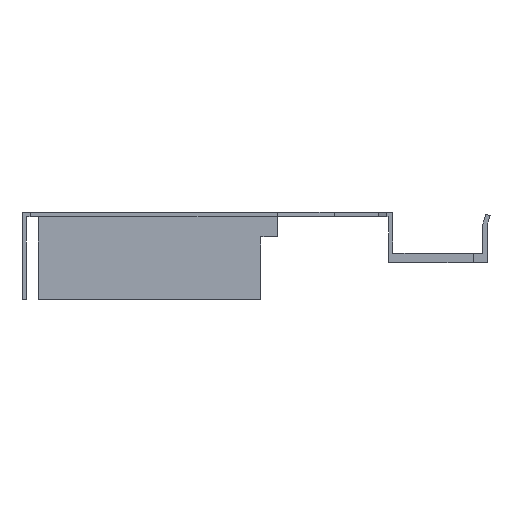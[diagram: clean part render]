
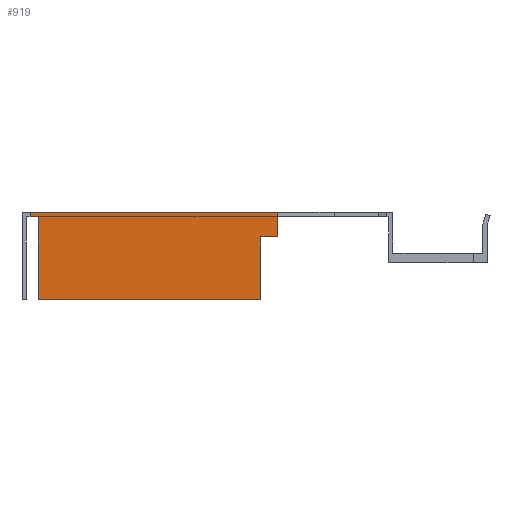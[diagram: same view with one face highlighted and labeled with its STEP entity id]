
A CAD part, left-side view. The second image highlights one B-rep face of the part: STEP entity #919.
In plain terms, the highlighted planar face has unit normal (-1, 0, 0).
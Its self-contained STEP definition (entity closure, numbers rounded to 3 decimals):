
#3 = EDGE_CURVE ( 'NONE', #287, #301, #1625, .T. ) ;
#21 = EDGE_CURVE ( 'NONE', #289, #287, #1656, .T. ) ;
#22 = EDGE_CURVE ( 'NONE', #260, #290, #1658, .T. ) ;
#24 = EDGE_CURVE ( 'NONE', #286, #289, #1662, .T. ) ;
#25 = EDGE_CURVE ( 'NONE', #280, #258, #1664, .T. ) ;
#26 = EDGE_CURVE ( 'NONE', #301, #290, #1647, .T. ) ;
#108 = EDGE_CURVE ( 'NONE', #286, #280, #1113, .T. ) ;
#135 = EDGE_CURVE ( 'NONE', #258, #260, #1167, .T. ) ;
#178 = AXIS2_PLACEMENT_3D ( 'NONE', #774, #780, #781 ) ;
#258 = VERTEX_POINT ( 'NONE', #652 ) ;
#260 = VERTEX_POINT ( 'NONE', #654 ) ;
#280 = VERTEX_POINT ( 'NONE', #674 ) ;
#286 = VERTEX_POINT ( 'NONE', #680 ) ;
#287 = VERTEX_POINT ( 'NONE', #681 ) ;
#289 = VERTEX_POINT ( 'NONE', #683 ) ;
#290 = VERTEX_POINT ( 'NONE', #684 ) ;
#301 = VERTEX_POINT ( 'NONE', #695 ) ;
#315 = CARTESIAN_POINT ( 'NONE',  ( -865., 24.2, -8.5 ) ) ;
#316 = DIRECTION ( 'NONE',  ( 0., 0., 1. ) ) ;
#344 = CARTESIAN_POINT ( 'NONE',  ( -865., 65., -8.5 ) ) ;
#345 = DIRECTION ( 'NONE',  ( 0., -1., 0. ) ) ;
#346 = CARTESIAN_POINT ( 'NONE',  ( -865., 21.2, 0. ) ) ;
#347 = DIRECTION ( 'NONE',  ( 0., 0., -1. ) ) ;
#348 = CARTESIAN_POINT ( 'NONE',  ( -865., 24.2, 3. ) ) ;
#350 = CARTESIAN_POINT ( 'NONE',  ( -865., 65., 7.5 ) ) ;
#351 = DIRECTION ( 'NONE',  ( 0., 0., -1. ) ) ;
#352 = CARTESIAN_POINT ( 'NONE',  ( -865., 66.5, 6.7 ) ) ;
#353 = DIRECTION ( 'NONE',  ( 0., 0., 1. ) ) ;
#355 = DIRECTION ( 'NONE',  ( 0., -1., 0. ) ) ;
#527 = CARTESIAN_POINT ( 'NONE',  ( -865., 0.8, 6.7 ) ) ;
#528 = DIRECTION ( 'NONE',  ( 0., 1., 0. ) ) ;
#582 = CARTESIAN_POINT ( 'NONE',  ( -865., 0., 7.5 ) ) ;
#583 = DIRECTION ( 'NONE',  ( 0., -1., 0. ) ) ;
#652 = CARTESIAN_POINT ( 'NONE',  ( -865., 66.5, 7.5 ) ) ;
#654 = CARTESIAN_POINT ( 'NONE',  ( -865., 21.2, 7.5 ) ) ;
#674 = CARTESIAN_POINT ( 'NONE',  ( -865., 66.5, 6.7 ) ) ;
#680 = CARTESIAN_POINT ( 'NONE',  ( -865., 65., 6.7 ) ) ;
#681 = CARTESIAN_POINT ( 'NONE',  ( -865., 24.2, -8.5 ) ) ;
#683 = CARTESIAN_POINT ( 'NONE',  ( -865., 65., -8.5 ) ) ;
#684 = CARTESIAN_POINT ( 'NONE',  ( -865., 21.2, 3. ) ) ;
#695 = CARTESIAN_POINT ( 'NONE',  ( -865., 24.2, 3. ) ) ;
#771 = PLANE ( 'NONE',  #178 ) ;
#774 = CARTESIAN_POINT ( 'NONE',  ( -865., -16.5, 0. ) ) ;
#780 = DIRECTION ( 'NONE',  ( -1., 0., 0. ) ) ;
#781 = DIRECTION ( 'NONE',  ( 0., 0., 1. ) ) ;
#919 = ADVANCED_FACE ( 'NONE', ( #1218 ), #771, .T. ) ;
#1113 = LINE ( 'NONE', #527, #1114 ) ;
#1114 = VECTOR ( 'NONE', #528, 1000. ) ;
#1167 = LINE ( 'NONE', #582, #1168 ) ;
#1168 = VECTOR ( 'NONE', #583, 1000. ) ;
#1218 = FACE_OUTER_BOUND ( 'NONE', #1556, .T. ) ;
#1399 = ORIENTED_EDGE ( 'NONE', *, *, #25, .F. ) ;
#1400 = ORIENTED_EDGE ( 'NONE', *, *, #108, .F. ) ;
#1401 = ORIENTED_EDGE ( 'NONE', *, *, #24, .T. ) ;
#1402 = ORIENTED_EDGE ( 'NONE', *, *, #21, .T. ) ;
#1403 = ORIENTED_EDGE ( 'NONE', *, *, #3, .T. ) ;
#1404 = ORIENTED_EDGE ( 'NONE', *, *, #26, .T. ) ;
#1405 = ORIENTED_EDGE ( 'NONE', *, *, #22, .F. ) ;
#1406 = ORIENTED_EDGE ( 'NONE', *, *, #135, .F. ) ;
#1556 = EDGE_LOOP ( 'NONE', ( #1399, #1400, #1401, #1402, #1403, #1404, #1405, #1406 ) ) ;
#1623 = VECTOR ( 'NONE', #316, 1000. ) ;
#1625 = LINE ( 'NONE', #315, #1623 ) ;
#1647 = LINE ( 'NONE', #348, #1666 ) ;
#1656 = LINE ( 'NONE', #344, #1657 ) ;
#1657 = VECTOR ( 'NONE', #345, 1000. ) ;
#1658 = LINE ( 'NONE', #346, #1659 ) ;
#1659 = VECTOR ( 'NONE', #347, 1000. ) ;
#1662 = LINE ( 'NONE', #350, #1663 ) ;
#1663 = VECTOR ( 'NONE', #351, 1000. ) ;
#1664 = LINE ( 'NONE', #352, #1665 ) ;
#1665 = VECTOR ( 'NONE', #353, 1000. ) ;
#1666 = VECTOR ( 'NONE', #355, 1000. ) ;
